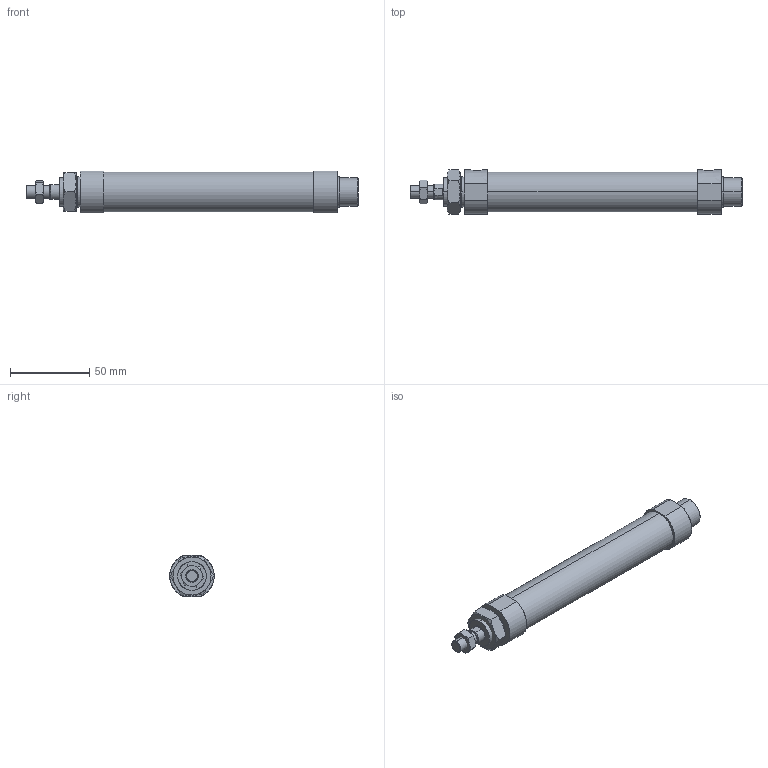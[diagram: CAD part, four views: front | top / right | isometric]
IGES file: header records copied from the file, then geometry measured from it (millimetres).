
Start section: SolidWorks IGES file using analytic representation for surfaces
Global section: file name: C:\Users\Toshiba\Desktop\J#2-20-100-N.IGS; native system: SolidWorks 2014; preprocessor: SolidWorks 2014; author: Toshiba; date: 160308.150221; units: millimetre
Bounding box: 209 x 28 x 26 mm (x, y, z)
Surface area: 19295.8 mm2 (no closed solid volume)
Topology: 0 solids, 0 shells, 92 faces, 1620 edges, 1620 vertices
Faces by surface type: bspline 60, revolution 32
